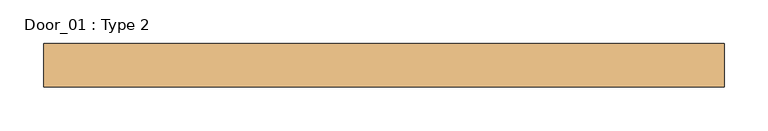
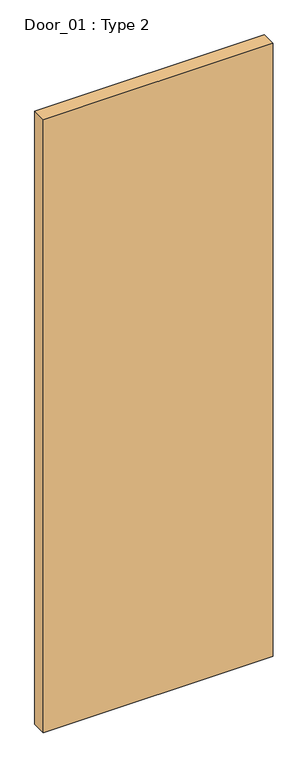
"""IFC4 building model written with IfcOpenShell, lengths in millimetres: door geometry, Door_01 : Type 2."""

from ifc_helpers import new_model, si_unit, origin, origin_with_axes, place, context, project, spatial, polyline, outline, extrude, source, transform, mapped, element, save


def door_01_type_2_38c6b91d(model_context):
    return source(origin(), model_context, "Body", "SweptSolid", [
        extrude(outline(polyline([(390.0, 25.0), (-390.0, 25.0), (-390.0, 75.0), (390.0, 75.0), (390.0, 25.0)])), origin_with_axes(), (0.0, 0.0, 1.0), 2200.0),
    ])


if __name__ == "__main__":
    model = new_model("IFC4")
    model_context = context("Model", 3, world=origin())
    ifc_project = project(units=[si_unit("LENGTHUNIT", "METRE", prefix="MILLI")], contexts=[model_context])
    site = spatial("IfcSite", under=ifc_project)
    building = spatial("IfcBuilding", under=site)
    placement = place(None, origin())
    door_01_type_2_shape = door_01_type_2_38c6b91d(model_context)
    element("IfcDoor", 1, ObjectType="Door_01 : Type 2", at=placement, inside=building, context=model_context, shape_type="MappedRepresentation", body=[
        mapped(door_01_type_2_shape, transform((0.0, 0.0, 0.0), x_axis=(1.0, 0.0, 0.0), y_axis=(0.0, 1.0, 0.0), z_axis=(0.0, 0.0, 1.0))),
    ])
    save(model, "model.ifc")
